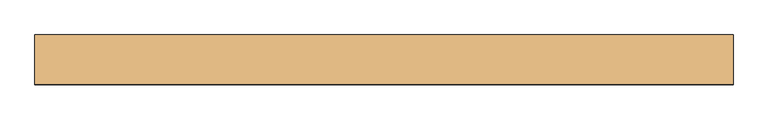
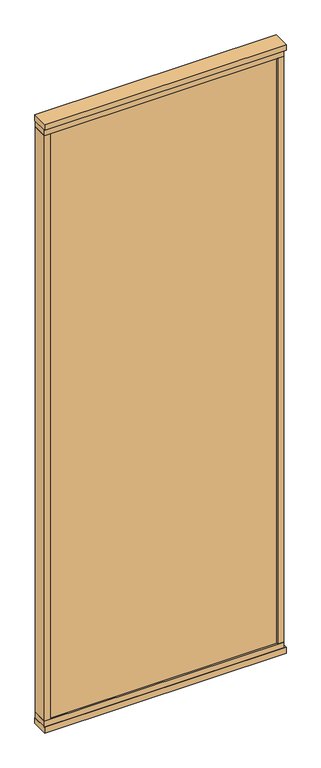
"""IFC4 building model written with IfcOpenShell, lengths in millimetres: door geometry, Mobiliário_Mobiliário de Escritório_Painel de Vidro Duplo com Persiana - AWT E AWL (Complementar)_Marelli : AWT - Temperado."""

from ifc_helpers import new_model, si_unit, frame, origin, origin_with_axes, place, context, project, spatial, polyline, outline, extrude, source, transform, mapped, element, save


def door_ba2fbede(model_context):
    return source(origin(), model_context, "Body", "SweptSolid", [
        extrude(outline(polyline([(600.0, 42.5), (600.0, -42.5), (-600.0, -42.5), (-600.0, 42.5), (600.0, 42.5)])), origin_with_axes(), (0.0, 0.0, 1.0), 30.0),
        extrude(outline(polyline([(590.0, 39.5), (590.0, -39.5), (-600.0, -39.5), (-600.0, 39.5), (590.0, 39.5)])), frame((0.0, 0.0, 30.0), z_axis=(0.0, 0.0, 1.0), x_axis=(1.0, 0.0, 0.0)), (0.0, 0.0, 1.0), 30.0),
        extrude(outline(polyline([(560.0, 13.6216022), (560.0, -11.3783978), (-570.0, -11.3783978), (-570.0, 13.6216022), (560.0, 13.6216022)])), frame((0.0, 0.0, 3107.0), z_axis=(0.0, 0.0, 1.0), x_axis=(1.0, 0.0, 0.0)), (0.0, 0.0, 1.0), 25.0),
        extrude(outline(polyline([(600.0, 42.5), (600.0, -42.5), (-600.0, -42.5), (-600.0, 42.5), (600.0, 42.5)])), frame((0.0, 0.0, 3170.0), z_axis=(0.0, 0.0, 1.0), x_axis=(1.0, 0.0, 0.0)), (0.0, 0.0, 1.0), 30.0),
        extrude(outline(polyline([(590.0, 39.5), (590.0, -39.5), (-600.0, -39.5), (-600.0, 39.5), (590.0, 39.5)])), frame((0.0, 0.0, 3140.0), z_axis=(0.0, 0.0, 1.0), x_axis=(1.0, 0.0, 0.0)), (0.0, 0.0, 1.0), 30.0),
        extrude(outline(polyline([(600.0, -21.5), (590.0, -21.5), (590.0, 21.5), (600.0, 21.5), (600.0, -21.5)])), frame((0.0, 0.0, 30.0), z_axis=(0.0, 0.0, 1.0), x_axis=(1.0, 0.0, 0.0)), (0.0, 0.0, 1.0), 3140.0),
        extrude(outline(polyline([(560.0, 39.5), (590.0, 39.5), (590.0, -39.5), (560.0, -39.5), (560.0, 39.5)])), frame((0.0, 0.0, 60.0), z_axis=(0.0, 0.0, 1.0), x_axis=(1.0, 0.0, 0.0)), (0.0, 0.0, 1.0), 3080.0),
        extrude(outline(polyline([(-570.0, 39.5), (-570.0, -39.5), (-600.0, -39.5), (-600.0, 39.5), (-570.0, 39.5)])), frame((0.0, 0.0, 60.0), z_axis=(0.0, 0.0, 1.0), x_axis=(1.0, 0.0, 0.0)), (0.0, 0.0, 1.0), 3080.0),
        extrude(outline(polyline([(560.0, -25.5), (560.0, -31.5), (-570.0, -31.5), (-570.0, -25.5), (560.0, -25.5)])), frame((0.0, 0.0, 60.0), z_axis=(0.0, 0.0, 1.0), x_axis=(1.0, 0.0, 0.0)), (0.0, 0.0, 1.0), 3080.0),
        extrude(outline(polyline([(560.0, 31.5), (560.0, 25.5), (-570.0, 25.5), (-570.0, 31.5), (560.0, 31.5)])), frame((0.0, 0.0, 60.0), z_axis=(0.0, 0.0, 1.0), x_axis=(1.0, 0.0, 0.0)), (0.0, 0.0, 1.0), 3080.0),
        extrude(outline(polyline([(560.0, 8.0), (560.0, -8.0), (-570.0, -8.0), (-570.0, 8.0), (560.0, 8.0)])), frame((0.0, 0.0, 1051.2), z_axis=(0.0, 0.0, 1.0), x_axis=(1.0, 0.0, 0.0)), (0.0, 0.0, 1.0), 0.8),
        extrude(outline(polyline([(560.0, 8.0), (560.0, -8.0), (-570.0, -8.0), (-570.0, 8.0), (560.0, 8.0)])), frame((0.0, 0.0, 1081.2), z_axis=(0.0, 0.0, 1.0), x_axis=(1.0, 0.0, 0.0)), (0.0, 0.0, 1.0), 0.8),
        extrude(outline(polyline([(560.0, 8.0), (560.0, -8.0), (-570.0, -8.0), (-570.0, 8.0), (560.0, 8.0)])), frame((0.0, 0.0, 1111.2), z_axis=(0.0, 0.0, 1.0), x_axis=(1.0, 0.0, 0.0)), (0.0, 0.0, 1.0), 0.8),
        extrude(outline(polyline([(560.0, 8.0), (560.0, -8.0), (-570.0, -8.0), (-570.0, 8.0), (560.0, 8.0)])), frame((0.0, 0.0, 1141.2), z_axis=(0.0, 0.0, 1.0), x_axis=(1.0, 0.0, 0.0)), (0.0, 0.0, 1.0), 0.8),
        extrude(outline(polyline([(560.0, 8.0), (560.0, -8.0), (-570.0, -8.0), (-570.0, 8.0), (560.0, 8.0)])), frame((0.0, 0.0, 1171.2), z_axis=(0.0, 0.0, 1.0), x_axis=(1.0, 0.0, 0.0)), (0.0, 0.0, 1.0), 0.8),
        extrude(outline(polyline([(560.0, 8.0), (560.0, -8.0), (-570.0, -8.0), (-570.0, 8.0), (560.0, 8.0)])), frame((0.0, 0.0, 1021.2), z_axis=(0.0, 0.0, 1.0), x_axis=(1.0, 0.0, 0.0)), (0.0, 0.0, 1.0), 0.8),
        extrude(outline(polyline([(560.0, 8.0), (560.0, -8.0), (-570.0, -8.0), (-570.0, 8.0), (560.0, 8.0)])), frame((0.0, 0.0, 991.2), z_axis=(0.0, 0.0, 1.0), x_axis=(1.0, 0.0, 0.0)), (0.0, 0.0, 1.0), 0.8),
        extrude(outline(polyline([(560.0, 8.0), (560.0, -8.0), (-570.0, -8.0), (-570.0, 8.0), (560.0, 8.0)])), frame((0.0, 0.0, 961.2), z_axis=(0.0, 0.0, 1.0), x_axis=(1.0, 0.0, 0.0)), (0.0, 0.0, 1.0), 0.8),
        extrude(outline(polyline([(560.0, 8.0), (560.0, -8.0), (-570.0, -8.0), (-570.0, 8.0), (560.0, 8.0)])), frame((0.0, 0.0, 931.2), z_axis=(0.0, 0.0, 1.0), x_axis=(1.0, 0.0, 0.0)), (0.0, 0.0, 1.0), 0.8),
        extrude(outline(polyline([(560.0, 8.0), (560.0, -8.0), (-570.0, -8.0), (-570.0, 8.0), (560.0, 8.0)])), frame((0.0, 0.0, 901.2), z_axis=(0.0, 0.0, 1.0), x_axis=(1.0, 0.0, 0.0)), (0.0, 0.0, 1.0), 0.8),
        extrude(outline(polyline([(560.0, 8.0), (560.0, -8.0), (-570.0, -8.0), (-570.0, 8.0), (560.0, 8.0)])), frame((0.0, 0.0, 661.2), z_axis=(0.0, 0.0, 1.0), x_axis=(1.0, 0.0, 0.0)), (0.0, 0.0, 1.0), 0.8),
        extrude(outline(polyline([(560.0, 8.0), (560.0, -8.0), (-570.0, -8.0), (-570.0, 8.0), (560.0, 8.0)])), frame((0.0, 0.0, 691.2), z_axis=(0.0, 0.0, 1.0), x_axis=(1.0, 0.0, 0.0)), (0.0, 0.0, 1.0), 0.8),
        extrude(outline(polyline([(560.0, 8.0), (560.0, -8.0), (-570.0, -8.0), (-570.0, 8.0), (560.0, 8.0)])), frame((0.0, 0.0, 721.2), z_axis=(0.0, 0.0, 1.0), x_axis=(1.0, 0.0, 0.0)), (0.0, 0.0, 1.0), 0.8),
        extrude(outline(polyline([(560.0, 8.0), (560.0, -8.0), (-570.0, -8.0), (-570.0, 8.0), (560.0, 8.0)])), frame((0.0, 0.0, 751.2), z_axis=(0.0, 0.0, 1.0), x_axis=(1.0, 0.0, 0.0)), (0.0, 0.0, 1.0), 0.8),
        extrude(outline(polyline([(560.0, 8.0), (560.0, -8.0), (-570.0, -8.0), (-570.0, 8.0), (560.0, 8.0)])), frame((0.0, 0.0, 781.2), z_axis=(0.0, 0.0, 1.0), x_axis=(1.0, 0.0, 0.0)), (0.0, 0.0, 1.0), 0.8),
        extrude(outline(polyline([(560.0, 8.0), (560.0, -8.0), (-570.0, -8.0), (-570.0, 8.0), (560.0, 8.0)])), frame((0.0, 0.0, 811.2), z_axis=(0.0, 0.0, 1.0), x_axis=(1.0, 0.0, 0.0)), (0.0, 0.0, 1.0), 0.8),
        extrude(outline(polyline([(560.0, 8.0), (560.0, -8.0), (-570.0, -8.0), (-570.0, 8.0), (560.0, 8.0)])), frame((0.0, 0.0, 841.2), z_axis=(0.0, 0.0, 1.0), x_axis=(1.0, 0.0, 0.0)), (0.0, 0.0, 1.0), 0.8),
        extrude(outline(polyline([(560.0, 8.0), (560.0, -8.0), (-570.0, -8.0), (-570.0, 8.0), (560.0, 8.0)])), frame((0.0, 0.0, 871.2), z_axis=(0.0, 0.0, 1.0), x_axis=(1.0, 0.0, 0.0)), (0.0, 0.0, 1.0), 0.8),
        extrude(outline(polyline([(560.0, 8.0), (560.0, -8.0), (-570.0, -8.0), (-570.0, 8.0), (560.0, 8.0)])), frame((0.0, 0.0, 3091.2), z_axis=(0.0, 0.0, 1.0), x_axis=(1.0, 0.0, 0.0)), (0.0, 0.0, 1.0), 0.8),
        extrude(outline(polyline([(560.0, 8.0), (560.0, -8.0), (-570.0, -8.0), (-570.0, 8.0), (560.0, 8.0)])), frame((0.0, 0.0, 3061.2), z_axis=(0.0, 0.0, 1.0), x_axis=(1.0, 0.0, 0.0)), (0.0, 0.0, 1.0), 0.8),
        extrude(outline(polyline([(560.0, 8.0), (560.0, -8.0), (-570.0, -8.0), (-570.0, 8.0), (560.0, 8.0)])), frame((0.0, 0.0, 3031.2), z_axis=(0.0, 0.0, 1.0), x_axis=(1.0, 0.0, 0.0)), (0.0, 0.0, 1.0), 0.8),
        extrude(outline(polyline([(560.0, 8.0), (560.0, -8.0), (-570.0, -8.0), (-570.0, 8.0), (560.0, 8.0)])), frame((0.0, 0.0, 3001.2), z_axis=(0.0, 0.0, 1.0), x_axis=(1.0, 0.0, 0.0)), (0.0, 0.0, 1.0), 0.8),
        extrude(outline(polyline([(560.0, 8.0), (560.0, -8.0), (-570.0, -8.0), (-570.0, 8.0), (560.0, 8.0)])), frame((0.0, 0.0, 2971.2), z_axis=(0.0, 0.0, 1.0), x_axis=(1.0, 0.0, 0.0)), (0.0, 0.0, 1.0), 0.8),
        extrude(outline(polyline([(560.0, 8.0), (560.0, -8.0), (-570.0, -8.0), (-570.0, 8.0), (560.0, 8.0)])), frame((0.0, 0.0, 2941.2), z_axis=(0.0, 0.0, 1.0), x_axis=(1.0, 0.0, 0.0)), (0.0, 0.0, 1.0), 0.8),
        extrude(outline(polyline([(560.0, 8.0), (560.0, -8.0), (-570.0, -8.0), (-570.0, 8.0), (560.0, 8.0)])), frame((0.0, 0.0, 2911.2), z_axis=(0.0, 0.0, 1.0), x_axis=(1.0, 0.0, 0.0)), (0.0, 0.0, 1.0), 0.8),
        extrude(outline(polyline([(560.0, 8.0), (560.0, -8.0), (-570.0, -8.0), (-570.0, 8.0), (560.0, 8.0)])), frame((0.0, 0.0, 2881.2), z_axis=(0.0, 0.0, 1.0), x_axis=(1.0, 0.0, 0.0)), (0.0, 0.0, 1.0), 0.8),
        extrude(outline(polyline([(560.0, 8.0), (560.0, -8.0), (-570.0, -8.0), (-570.0, 8.0), (560.0, 8.0)])), frame((0.0, 0.0, 2851.2), z_axis=(0.0, 0.0, 1.0), x_axis=(1.0, 0.0, 0.0)), (0.0, 0.0, 1.0), 0.8),
        extrude(outline(polyline([(560.0, 8.0), (560.0, -8.0), (-570.0, -8.0), (-570.0, 8.0), (560.0, 8.0)])), frame((0.0, 0.0, 2821.2), z_axis=(0.0, 0.0, 1.0), x_axis=(1.0, 0.0, 0.0)), (0.0, 0.0, 1.0), 0.8),
        extrude(outline(polyline([(560.0, 8.0), (560.0, -8.0), (-570.0, -8.0), (-570.0, 8.0), (560.0, 8.0)])), frame((0.0, 0.0, 2791.2), z_axis=(0.0, 0.0, 1.0), x_axis=(1.0, 0.0, 0.0)), (0.0, 0.0, 1.0), 0.8),
        extrude(outline(polyline([(560.0, 8.0), (560.0, -8.0), (-570.0, -8.0), (-570.0, 8.0), (560.0, 8.0)])), frame((0.0, 0.0, 2761.2), z_axis=(0.0, 0.0, 1.0), x_axis=(1.0, 0.0, 0.0)), (0.0, 0.0, 1.0), 0.8),
        extrude(outline(polyline([(560.0, 8.0), (560.0, -8.0), (-570.0, -8.0), (-570.0, 8.0), (560.0, 8.0)])), frame((0.0, 0.0, 2731.2), z_axis=(0.0, 0.0, 1.0), x_axis=(1.0, 0.0, 0.0)), (0.0, 0.0, 1.0), 0.8),
        extrude(outline(polyline([(560.0, 8.0), (560.0, -8.0), (-570.0, -8.0), (-570.0, 8.0), (560.0, 8.0)])), frame((0.0, 0.0, 2701.2), z_axis=(0.0, 0.0, 1.0), x_axis=(1.0, 0.0, 0.0)), (0.0, 0.0, 1.0), 0.8),
        extrude(outline(polyline([(560.0, 8.0), (560.0, -8.0), (-570.0, -8.0), (-570.0, 8.0), (560.0, 8.0)])), frame((0.0, 0.0, 2671.2), z_axis=(0.0, 0.0, 1.0), x_axis=(1.0, 0.0, 0.0)), (0.0, 0.0, 1.0), 0.8),
        extrude(outline(polyline([(560.0, 8.0), (560.0, -8.0), (-570.0, -8.0), (-570.0, 8.0), (560.0, 8.0)])), frame((0.0, 0.0, 2641.2), z_axis=(0.0, 0.0, 1.0), x_axis=(1.0, 0.0, 0.0)), (0.0, 0.0, 1.0), 0.8),
        extrude(outline(polyline([(560.0, 8.0), (560.0, -8.0), (-570.0, -8.0), (-570.0, 8.0), (560.0, 8.0)])), frame((0.0, 0.0, 2611.2), z_axis=(0.0, 0.0, 1.0), x_axis=(1.0, 0.0, 0.0)), (0.0, 0.0, 1.0), 0.8),
        extrude(outline(polyline([(560.0, 8.0), (560.0, -8.0), (-570.0, -8.0), (-570.0, 8.0), (560.0, 8.0)])), frame((0.0, 0.0, 2581.2), z_axis=(0.0, 0.0, 1.0), x_axis=(1.0, 0.0, 0.0)), (0.0, 0.0, 1.0), 0.8),
        extrude(outline(polyline([(560.0, 8.0), (560.0, -8.0), (-570.0, -8.0), (-570.0, 8.0), (560.0, 8.0)])), frame((0.0, 0.0, 2551.2), z_axis=(0.0, 0.0, 1.0), x_axis=(1.0, 0.0, 0.0)), (0.0, 0.0, 1.0), 0.8),
        extrude(outline(polyline([(560.0, 8.0), (560.0, -8.0), (-570.0, -8.0), (-570.0, 8.0), (560.0, 8.0)])), frame((0.0, 0.0, 2521.2), z_axis=(0.0, 0.0, 1.0), x_axis=(1.0, 0.0, 0.0)), (0.0, 0.0, 1.0), 0.8),
        extrude(outline(polyline([(560.0, 8.0), (560.0, -8.0), (-570.0, -8.0), (-570.0, 8.0), (560.0, 8.0)])), frame((0.0, 0.0, 2491.2), z_axis=(0.0, 0.0, 1.0), x_axis=(1.0, 0.0, 0.0)), (0.0, 0.0, 1.0), 0.8),
        extrude(outline(polyline([(560.0, 8.0), (560.0, -8.0), (-570.0, -8.0), (-570.0, 8.0), (560.0, 8.0)])), frame((0.0, 0.0, 2461.2), z_axis=(0.0, 0.0, 1.0), x_axis=(1.0, 0.0, 0.0)), (0.0, 0.0, 1.0), 0.8),
        extrude(outline(polyline([(560.0, 8.0), (560.0, -8.0), (-570.0, -8.0), (-570.0, 8.0), (560.0, 8.0)])), frame((0.0, 0.0, 2431.2), z_axis=(0.0, 0.0, 1.0), x_axis=(1.0, 0.0, 0.0)), (0.0, 0.0, 1.0), 0.8),
        extrude(outline(polyline([(560.0, 8.0), (560.0, -8.0), (-570.0, -8.0), (-570.0, 8.0), (560.0, 8.0)])), frame((0.0, 0.0, 2401.2), z_axis=(0.0, 0.0, 1.0), x_axis=(1.0, 0.0, 0.0)), (0.0, 0.0, 1.0), 0.8),
        extrude(outline(polyline([(560.0, 8.0), (560.0, -8.0), (-570.0, -8.0), (-570.0, 8.0), (560.0, 8.0)])), frame((0.0, 0.0, 2371.2), z_axis=(0.0, 0.0, 1.0), x_axis=(1.0, 0.0, 0.0)), (0.0, 0.0, 1.0), 0.8),
        extrude(outline(polyline([(560.0, 8.0), (560.0, -8.0), (-570.0, -8.0), (-570.0, 8.0), (560.0, 8.0)])), frame((0.0, 0.0, 2341.2), z_axis=(0.0, 0.0, 1.0), x_axis=(1.0, 0.0, 0.0)), (0.0, 0.0, 1.0), 0.8),
        extrude(outline(polyline([(560.0, 8.0), (560.0, -8.0), (-570.0, -8.0), (-570.0, 8.0), (560.0, 8.0)])), frame((0.0, 0.0, 2311.2), z_axis=(0.0, 0.0, 1.0), x_axis=(1.0, 0.0, 0.0)), (0.0, 0.0, 1.0), 0.8),
        extrude(outline(polyline([(560.0, 8.0), (560.0, -8.0), (-570.0, -8.0), (-570.0, 8.0), (560.0, 8.0)])), frame((0.0, 0.0, 2281.2), z_axis=(0.0, 0.0, 1.0), x_axis=(1.0, 0.0, 0.0)), (0.0, 0.0, 1.0), 0.8),
        extrude(outline(polyline([(560.0, 8.0), (560.0, -8.0), (-570.0, -8.0), (-570.0, 8.0), (560.0, 8.0)])), frame((0.0, 0.0, 2251.2), z_axis=(0.0, 0.0, 1.0), x_axis=(1.0, 0.0, 0.0)), (0.0, 0.0, 1.0), 0.8),
        extrude(outline(polyline([(560.0, 8.0), (560.0, -8.0), (-570.0, -8.0), (-570.0, 8.0), (560.0, 8.0)])), frame((0.0, 0.0, 2221.2), z_axis=(0.0, 0.0, 1.0), x_axis=(1.0, 0.0, 0.0)), (0.0, 0.0, 1.0), 0.8),
        extrude(outline(polyline([(560.0, 8.0), (560.0, -8.0), (-570.0, -8.0), (-570.0, 8.0), (560.0, 8.0)])), frame((0.0, 0.0, 2191.2), z_axis=(0.0, 0.0, 1.0), x_axis=(1.0, 0.0, 0.0)), (0.0, 0.0, 1.0), 0.8),
        extrude(outline(polyline([(560.0, 8.0), (560.0, -8.0), (-570.0, -8.0), (-570.0, 8.0), (560.0, 8.0)])), frame((0.0, 0.0, 2161.2), z_axis=(0.0, 0.0, 1.0), x_axis=(1.0, 0.0, 0.0)), (0.0, 0.0, 1.0), 0.8),
        extrude(outline(polyline([(560.0, 8.0), (560.0, -8.0), (-570.0, -8.0), (-570.0, 8.0), (560.0, 8.0)])), frame((0.0, 0.0, 2131.2), z_axis=(0.0, 0.0, 1.0), x_axis=(1.0, 0.0, 0.0)), (0.0, 0.0, 1.0), 0.8),
        extrude(outline(polyline([(560.0, 8.0), (560.0, -8.0), (-570.0, -8.0), (-570.0, 8.0), (560.0, 8.0)])), frame((0.0, 0.0, 2101.2), z_axis=(0.0, 0.0, 1.0), x_axis=(1.0, 0.0, 0.0)), (0.0, 0.0, 1.0), 0.8),
        extrude(outline(polyline([(560.0, 8.0), (560.0, -8.0), (-570.0, -8.0), (-570.0, 8.0), (560.0, 8.0)])), frame((0.0, 0.0, 2071.2), z_axis=(0.0, 0.0, 1.0), x_axis=(1.0, 0.0, 0.0)), (0.0, 0.0, 1.0), 0.8),
        extrude(outline(polyline([(560.0, 8.0), (560.0, -8.0), (-570.0, -8.0), (-570.0, 8.0), (560.0, 8.0)])), frame((0.0, 0.0, 2041.2), z_axis=(0.0, 0.0, 1.0), x_axis=(1.0, 0.0, 0.0)), (0.0, 0.0, 1.0), 0.8),
        extrude(outline(polyline([(560.0, 8.0), (560.0, -8.0), (-570.0, -8.0), (-570.0, 8.0), (560.0, 8.0)])), frame((0.0, 0.0, 2011.2), z_axis=(0.0, 0.0, 1.0), x_axis=(1.0, 0.0, 0.0)), (0.0, 0.0, 1.0), 0.8),
        extrude(outline(polyline([(560.0, 8.0), (560.0, -8.0), (-570.0, -8.0), (-570.0, 8.0), (560.0, 8.0)])), frame((0.0, 0.0, 1981.2), z_axis=(0.0, 0.0, 1.0), x_axis=(1.0, 0.0, 0.0)), (0.0, 0.0, 1.0), 0.8),
        extrude(outline(polyline([(560.0, 8.0), (560.0, -8.0), (-570.0, -8.0), (-570.0, 8.0), (560.0, 8.0)])), frame((0.0, 0.0, 1951.2), z_axis=(0.0, 0.0, 1.0), x_axis=(1.0, 0.0, 0.0)), (0.0, 0.0, 1.0), 0.8),
        extrude(outline(polyline([(560.0, 8.0), (560.0, -8.0), (-570.0, -8.0), (-570.0, 8.0), (560.0, 8.0)])), frame((0.0, 0.0, 1921.2), z_axis=(0.0, 0.0, 1.0), x_axis=(1.0, 0.0, 0.0)), (0.0, 0.0, 1.0), 0.8),
        extrude(outline(polyline([(560.0, 8.0), (560.0, -8.0), (-570.0, -8.0), (-570.0, 8.0), (560.0, 8.0)])), frame((0.0, 0.0, 1891.2), z_axis=(0.0, 0.0, 1.0), x_axis=(1.0, 0.0, 0.0)), (0.0, 0.0, 1.0), 0.8),
        extrude(outline(polyline([(560.0, 8.0), (560.0, -8.0), (-570.0, -8.0), (-570.0, 8.0), (560.0, 8.0)])), frame((0.0, 0.0, 1861.2), z_axis=(0.0, 0.0, 1.0), x_axis=(1.0, 0.0, 0.0)), (0.0, 0.0, 1.0), 0.8),
        extrude(outline(polyline([(560.0, 8.0), (560.0, -8.0), (-570.0, -8.0), (-570.0, 8.0), (560.0, 8.0)])), frame((0.0, 0.0, 1831.2), z_axis=(0.0, 0.0, 1.0), x_axis=(1.0, 0.0, 0.0)), (0.0, 0.0, 1.0), 0.8),
        extrude(outline(polyline([(560.0, 8.0), (560.0, -8.0), (-570.0, -8.0), (-570.0, 8.0), (560.0, 8.0)])), frame((0.0, 0.0, 1801.2), z_axis=(0.0, 0.0, 1.0), x_axis=(1.0, 0.0, 0.0)), (0.0, 0.0, 1.0), 0.8),
        extrude(outline(polyline([(560.0, 8.0), (560.0, -8.0), (-570.0, -8.0), (-570.0, 8.0), (560.0, 8.0)])), frame((0.0, 0.0, 1501.2), z_axis=(0.0, 0.0, 1.0), x_axis=(1.0, 0.0, 0.0)), (0.0, 0.0, 1.0), 0.8),
        extrude(outline(polyline([(560.0, 8.0), (560.0, -8.0), (-570.0, -8.0), (-570.0, 8.0), (560.0, 8.0)])), frame((0.0, 0.0, 1531.2), z_axis=(0.0, 0.0, 1.0), x_axis=(1.0, 0.0, 0.0)), (0.0, 0.0, 1.0), 0.8),
        extrude(outline(polyline([(560.0, 8.0), (560.0, -8.0), (-570.0, -8.0), (-570.0, 8.0), (560.0, 8.0)])), frame((0.0, 0.0, 1561.2), z_axis=(0.0, 0.0, 1.0), x_axis=(1.0, 0.0, 0.0)), (0.0, 0.0, 1.0), 0.8),
        extrude(outline(polyline([(560.0, 8.0), (560.0, -8.0), (-570.0, -8.0), (-570.0, 8.0), (560.0, 8.0)])), frame((0.0, 0.0, 1591.2), z_axis=(0.0, 0.0, 1.0), x_axis=(1.0, 0.0, 0.0)), (0.0, 0.0, 1.0), 0.8),
        extrude(outline(polyline([(560.0, 8.0), (560.0, -8.0), (-570.0, -8.0), (-570.0, 8.0), (560.0, 8.0)])), frame((0.0, 0.0, 1621.2), z_axis=(0.0, 0.0, 1.0), x_axis=(1.0, 0.0, 0.0)), (0.0, 0.0, 1.0), 0.8),
        extrude(outline(polyline([(560.0, 8.0), (560.0, -8.0), (-570.0, -8.0), (-570.0, 8.0), (560.0, 8.0)])), frame((0.0, 0.0, 1651.2), z_axis=(0.0, 0.0, 1.0), x_axis=(1.0, 0.0, 0.0)), (0.0, 0.0, 1.0), 0.8),
        extrude(outline(polyline([(560.0, 8.0), (560.0, -8.0), (-570.0, -8.0), (-570.0, 8.0), (560.0, 8.0)])), frame((0.0, 0.0, 1681.2), z_axis=(0.0, 0.0, 1.0), x_axis=(1.0, 0.0, 0.0)), (0.0, 0.0, 1.0), 0.8),
        extrude(outline(polyline([(560.0, 8.0), (560.0, -8.0), (-570.0, -8.0), (-570.0, 8.0), (560.0, 8.0)])), frame((0.0, 0.0, 1711.2), z_axis=(0.0, 0.0, 1.0), x_axis=(1.0, 0.0, 0.0)), (0.0, 0.0, 1.0), 0.8),
        extrude(outline(polyline([(560.0, 8.0), (560.0, -8.0), (-570.0, -8.0), (-570.0, 8.0), (560.0, 8.0)])), frame((0.0, 0.0, 1741.2), z_axis=(0.0, 0.0, 1.0), x_axis=(1.0, 0.0, 0.0)), (0.0, 0.0, 1.0), 0.8),
        extrude(outline(polyline([(560.0, 8.0), (560.0, -8.0), (-570.0, -8.0), (-570.0, 8.0), (560.0, 8.0)])), frame((0.0, 0.0, 1771.2), z_axis=(0.0, 0.0, 1.0), x_axis=(1.0, 0.0, 0.0)), (0.0, 0.0, 1.0), 0.8),
        extrude(outline(polyline([(560.0, 8.0), (560.0, -8.0), (-570.0, -8.0), (-570.0, 8.0), (560.0, 8.0)])), frame((0.0, 0.0, 1201.2), z_axis=(0.0, 0.0, 1.0), x_axis=(1.0, 0.0, 0.0)), (0.0, 0.0, 1.0), 0.8),
        extrude(outline(polyline([(560.0, 8.0), (560.0, -8.0), (-570.0, -8.0), (-570.0, 8.0), (560.0, 8.0)])), frame((0.0, 0.0, 1471.2), z_axis=(0.0, 0.0, 1.0), x_axis=(1.0, 0.0, 0.0)), (0.0, 0.0, 1.0), 0.8),
        extrude(outline(polyline([(560.0, 8.0), (560.0, -8.0), (-570.0, -8.0), (-570.0, 8.0), (560.0, 8.0)])), frame((0.0, 0.0, 1441.2), z_axis=(0.0, 0.0, 1.0), x_axis=(1.0, 0.0, 0.0)), (0.0, 0.0, 1.0), 0.8),
        extrude(outline(polyline([(560.0, 8.0), (560.0, -8.0), (-570.0, -8.0), (-570.0, 8.0), (560.0, 8.0)])), frame((0.0, 0.0, 1411.2), z_axis=(0.0, 0.0, 1.0), x_axis=(1.0, 0.0, 0.0)), (0.0, 0.0, 1.0), 0.8),
        extrude(outline(polyline([(560.0, 8.0), (560.0, -8.0), (-570.0, -8.0), (-570.0, 8.0), (560.0, 8.0)])), frame((0.0, 0.0, 1381.2), z_axis=(0.0, 0.0, 1.0), x_axis=(1.0, 0.0, 0.0)), (0.0, 0.0, 1.0), 0.8),
        extrude(outline(polyline([(560.0, 8.0), (560.0, -8.0), (-570.0, -8.0), (-570.0, 8.0), (560.0, 8.0)])), frame((0.0, 0.0, 1351.2), z_axis=(0.0, 0.0, 1.0), x_axis=(1.0, 0.0, 0.0)), (0.0, 0.0, 1.0), 0.8),
        extrude(outline(polyline([(560.0, 8.0), (560.0, -8.0), (-570.0, -8.0), (-570.0, 8.0), (560.0, 8.0)])), frame((0.0, 0.0, 1321.2), z_axis=(0.0, 0.0, 1.0), x_axis=(1.0, 0.0, 0.0)), (0.0, 0.0, 1.0), 0.8),
        extrude(outline(polyline([(560.0, 8.0), (560.0, -8.0), (-570.0, -8.0), (-570.0, 8.0), (560.0, 8.0)])), frame((0.0, 0.0, 1291.2), z_axis=(0.0, 0.0, 1.0), x_axis=(1.0, 0.0, 0.0)), (0.0, 0.0, 1.0), 0.8),
        extrude(outline(polyline([(560.0, 8.0), (560.0, -8.0), (-570.0, -8.0), (-570.0, 8.0), (560.0, 8.0)])), frame((0.0, 0.0, 1261.2), z_axis=(0.0, 0.0, 1.0), x_axis=(1.0, 0.0, 0.0)), (0.0, 0.0, 1.0), 0.8),
        extrude(outline(polyline([(560.0, 8.0), (560.0, -8.0), (-570.0, -8.0), (-570.0, 8.0), (560.0, 8.0)])), frame((0.0, 0.0, 1231.2), z_axis=(0.0, 0.0, 1.0), x_axis=(1.0, 0.0, 0.0)), (0.0, 0.0, 1.0), 0.8),
    ])


if __name__ == "__main__":
    model = new_model("IFC4")
    model_context = context("Model", 3, world=origin())
    ifc_project = project(units=[si_unit("LENGTHUNIT", "METRE", prefix="MILLI")], contexts=[model_context])
    site = spatial("IfcSite", under=ifc_project)
    building = spatial("IfcBuilding", under=site)
    placement = place(None, origin())
    door_shape = door_ba2fbede(model_context)
    element("IfcDoor", 1, ObjectType="Mobiliário_Mobiliário de Escritório_Painel de Vidro Duplo com Persiana - AWT E AWL (Complementar)_Marelli : AWT - Temperado", at=placement, inside=building, context=model_context, shape_type="MappedRepresentation", body=[
        mapped(door_shape, transform((0.0, 0.0, 0.0), x_axis=(1.0, 0.0, 0.0), y_axis=(0.0, 1.0, 0.0), z_axis=(0.0, 0.0, 1.0))),
    ])
    save(model, "model.ifc")
